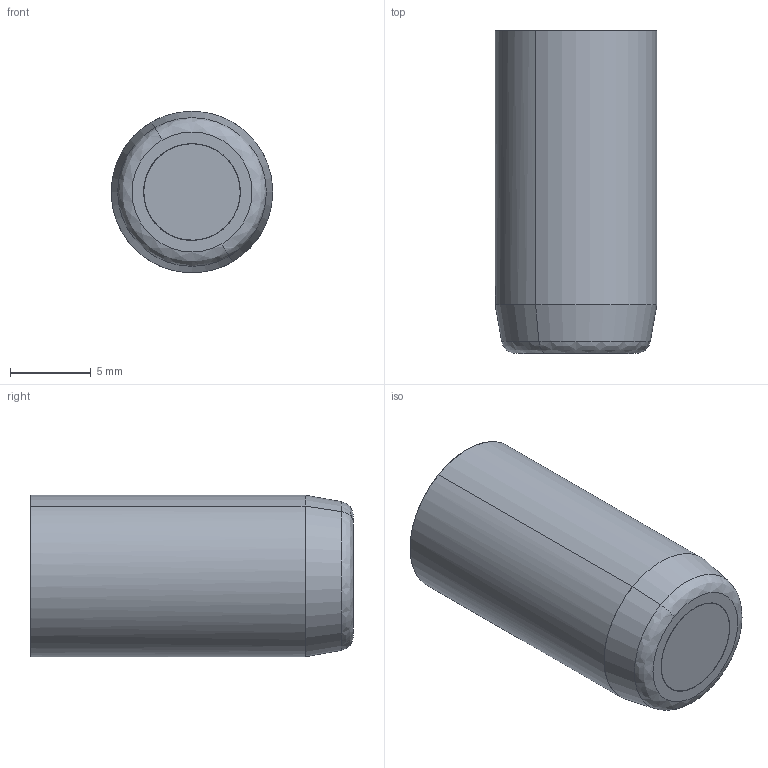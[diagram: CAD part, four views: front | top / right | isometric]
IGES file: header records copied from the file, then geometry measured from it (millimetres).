
Start section: START RECORD GO HERE.
Global section: file name: fa105706-21.igs; native system: DASSAULT SYSTEMES CATIA V5 R20 - www.3ds.com; preprocessor: CATIA Version 5 Release 20 ; author: Utente; organization: NB04-ASUS; date: 20201108.083700; units: millimetre
Bounding box: 10 x 20 x 10 mm (x, y, z)
Surface area: 1733.5 mm2 (no closed solid volume)
Topology: 0 solids, 0 shells, 363 faces, 1783 edges, 1780 vertices
Faces by surface type: bspline 176, plane 115, revolution 72
